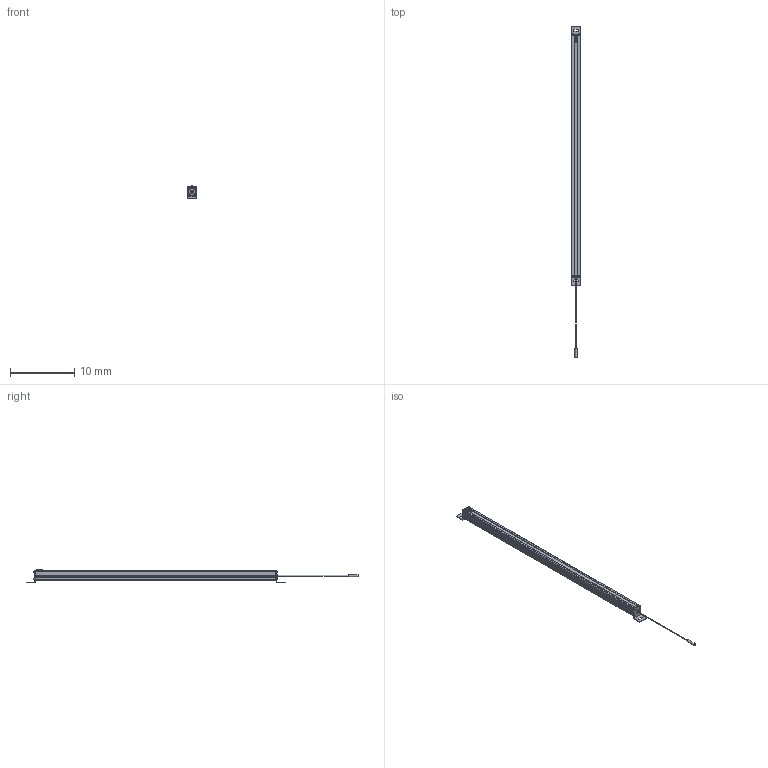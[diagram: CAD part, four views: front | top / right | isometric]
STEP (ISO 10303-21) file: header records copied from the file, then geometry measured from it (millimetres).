
FILE_DESCRIPTION((' '),'2;1');
FILE_NAME('C:\ACADFILES\SS_PYLONS\SS-36-PYLON_3D_L.stp','2015-08-10T10:02:03',(' '),(' '),' ','ACIS',' ');
FILE_SCHEMA(('CONFIG_CONTROL_DESIGN'));
Length unit declared in the file: millimetre
Products named in the file (1): C:\ACADFILES\SS_PYLONS\SS-36-PYLON_3D_L.stp
Bounding box: 1.46 x 51.52 x 2.11 mm (x, y, z)
Surface area: 568.8 mm2 (no closed solid volume)
Topology: 0 solids, 475 shells, 475 faces, 2101 edges, 2036 vertices
Faces by surface type: plane 364, cylinder 55, cone 40, bspline 8, torus 8
Full cylindrical faces by diameter (mm): 0.112 x8, 0.114 x4, 0.12 x12, 0.128 x2, 0.219 x8, 0.293 x3, 0.348 x1, 0.497 x1, 1.1 x2
Entity records: 28194 total; most frequent: CARTESIAN_POINT 5466, DIRECTION 3134, VERTEX_POINT 2007, EDGE_CURVE 2007, ORIENTED_EDGE 2007, VECTOR 1308, LINE 1308, AXIS2_PLACEMENT_3D 913
